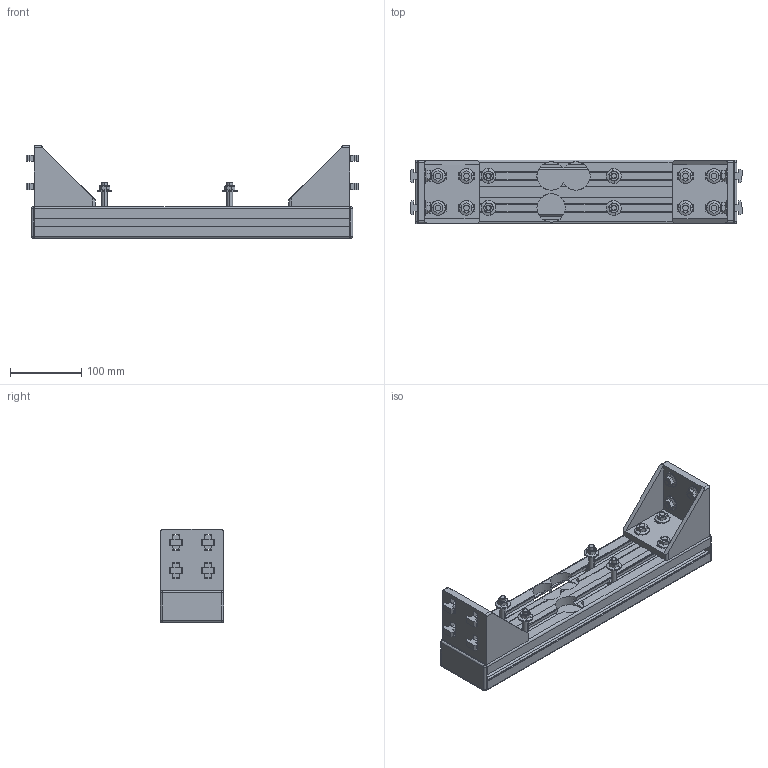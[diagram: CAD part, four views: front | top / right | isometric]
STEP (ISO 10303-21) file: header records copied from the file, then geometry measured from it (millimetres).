
FILE_DESCRIPTION (( 'STEP AP203' ), '1' );
FILE_NAME ('Asutec_75000062.STEP', '2021-11-16T10:26:23', ( '' ), ( '' ), 'SwSTEP 2.0', 'SolidWorks 2020', '' );
FILE_SCHEMA (( 'CONFIG_CONTROL_DESIGN' ));
Length unit declared in the file: millimetre
Products named in the file (1): Asutec_75000062
Bounding box: 467.6 x 90 x 131 mm (x, y, z)
Volume: 1575610.4 mm3; surface area: 392758.3 mm2
Topology: 7 solids, 7 shells, 1084 faces, 3052 edges, 1952 vertices
Faces by surface type: plane 795, cylinder 197, cone 76, sphere 8, bspline 8
Entity records: 35785 total; most frequent: CARTESIAN_POINT 8158, ORIENTED_EDGE 6088, DIRECTION 5360, EDGE_CURVE 3044, VECTOR 2096, LINE 2096, VERTEX_POINT 1952, AXIS2_PLACEMENT_3D 1632
